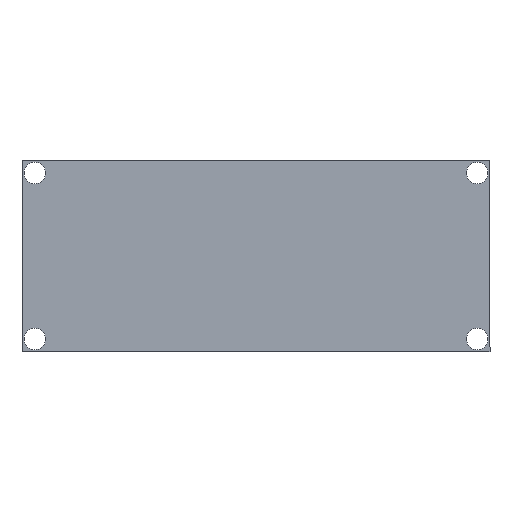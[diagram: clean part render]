
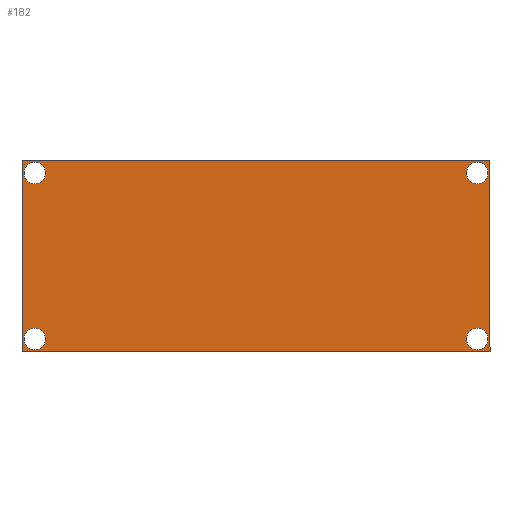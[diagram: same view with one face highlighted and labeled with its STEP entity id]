
A CAD part, top view. The second image highlights one B-rep face of the part: STEP entity #182.
In plain terms, the highlighted planar face has unit normal (0, 0, 1).
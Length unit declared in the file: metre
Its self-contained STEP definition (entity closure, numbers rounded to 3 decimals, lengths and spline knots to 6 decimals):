
#14=LINE('',#284,#26);
#17=LINE('',#290,#29);
#20=LINE('',#296,#32);
#23=LINE('',#301,#35);
#26=VECTOR('',#237,1.);
#29=VECTOR('',#242,1.);
#32=VECTOR('',#247,1.);
#35=VECTOR('',#252,1.);
#40=PLANE('',#205);
#66=ORIENTED_EDGE('',*,*,#101,.T.);
#67=ORIENTED_EDGE('',*,*,#98,.T.);
#68=ORIENTED_EDGE('',*,*,#95,.T.);
#69=ORIENTED_EDGE('',*,*,#92,.T.);
#70=ORIENTED_EDGE('',*,*,#82,.T.);
#71=ORIENTED_EDGE('',*,*,#84,.T.);
#72=ORIENTED_EDGE('',*,*,#86,.T.);
#73=ORIENTED_EDGE('',*,*,#88,.T.);
#82=EDGE_CURVE('',#102,#102,#118,.T.);
#84=EDGE_CURVE('',#104,#104,#120,.T.);
#86=EDGE_CURVE('',#106,#106,#122,.F.);
#88=EDGE_CURVE('',#108,#108,#124,.F.);
#92=EDGE_CURVE('',#113,#112,#14,.F.);
#95=EDGE_CURVE('',#115,#113,#17,.F.);
#98=EDGE_CURVE('',#117,#115,#20,.T.);
#101=EDGE_CURVE('',#112,#117,#23,.T.);
#102=VERTEX_POINT('',#260);
#104=VERTEX_POINT('',#265);
#106=VERTEX_POINT('',#270);
#108=VERTEX_POINT('',#275);
#112=VERTEX_POINT('',#283);
#113=VERTEX_POINT('',#285);
#115=VERTEX_POINT('',#291);
#117=VERTEX_POINT('',#297);
#118=CIRCLE('',#190,0.001);
#120=CIRCLE('',#193,0.001);
#122=CIRCLE('',#196,0.001);
#124=CIRCLE('',#199,0.001);
#138=EDGE_LOOP('',(#66,#67,#68,#69));
#139=EDGE_LOOP('',(#70));
#140=EDGE_LOOP('',(#71));
#141=EDGE_LOOP('',(#72));
#142=EDGE_LOOP('',(#73));
#160=FACE_BOUND('',#138,.T.);
#161=FACE_BOUND('',#139,.T.);
#162=FACE_BOUND('',#140,.T.);
#163=FACE_BOUND('',#141,.T.);
#164=FACE_BOUND('',#142,.T.);
#182=ADVANCED_FACE('',(#160,#161,#162,#163,#164),#40,.T.);
#190=AXIS2_PLACEMENT_3D('',#259,#211,#212);
#193=AXIS2_PLACEMENT_3D('',#264,#217,#218);
#196=AXIS2_PLACEMENT_3D('',#269,#223,#224);
#199=AXIS2_PLACEMENT_3D('',#274,#229,#230);
#205=AXIS2_PLACEMENT_3D('',#302,#253,#254);
#211=DIRECTION('',(0.,0.,-1.));
#212=DIRECTION('',(1.,0.,0.));
#217=DIRECTION('',(0.,0.,-1.));
#218=DIRECTION('',(0.,1.,0.));
#223=DIRECTION('',(0.,0.,1.));
#224=DIRECTION('',(0.,-1.,0.));
#229=DIRECTION('',(0.,0.,1.));
#230=DIRECTION('',(-1.,0.,0.));
#237=DIRECTION('',(0.,1.,0.));
#242=DIRECTION('',(1.,0.,0.));
#247=DIRECTION('',(0.,1.,0.));
#252=DIRECTION('',(1.,0.,0.));
#253=DIRECTION('',(0.,0.,1.));
#254=DIRECTION('',(1.,0.,0.));
#259=CARTESIAN_POINT('',(-0.005152,0.00775,-0.0284));
#260=CARTESIAN_POINT('',(-0.005152,0.00875,-0.0284));
#264=CARTESIAN_POINT('',(0.036148,-0.00775,-0.0284));
#265=CARTESIAN_POINT('',(0.036148,-0.00875,-0.0284));
#269=CARTESIAN_POINT('',(0.036148,0.00775,-0.0284));
#270=CARTESIAN_POINT('',(0.036148,0.00875,-0.0284));
#274=CARTESIAN_POINT('',(-0.005152,-0.00775,-0.0284));
#275=CARTESIAN_POINT('',(-0.005152,-0.00875,-0.0284));
#283=CARTESIAN_POINT('',(-0.006352,-0.00895,-0.0284));
#284=CARTESIAN_POINT('',(-0.006352,0.,-0.0284));
#285=CARTESIAN_POINT('',(-0.006352,0.00895,-0.0284));
#290=CARTESIAN_POINT('',(0.015498,0.00895,-0.0284));
#291=CARTESIAN_POINT('',(0.037348,0.00895,-0.0284));
#296=CARTESIAN_POINT('',(0.037348,0.,-0.0284));
#297=CARTESIAN_POINT('',(0.037348,-0.00895,-0.0284));
#301=CARTESIAN_POINT('',(0.015498,-0.00895,-0.0284));
#302=CARTESIAN_POINT('',(0.015498,0.,-0.0284));
